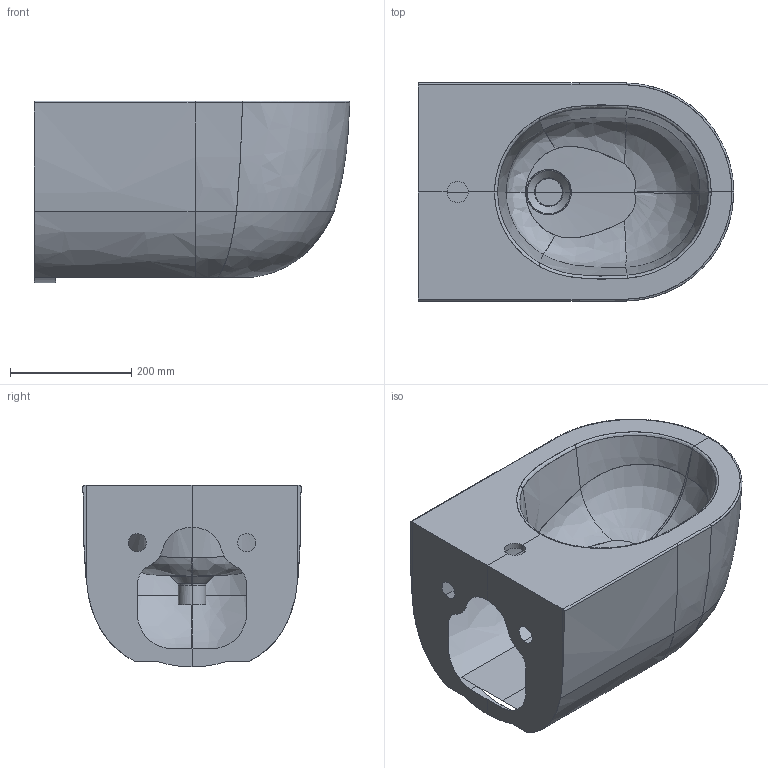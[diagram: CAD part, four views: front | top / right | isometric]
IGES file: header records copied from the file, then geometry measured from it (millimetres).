
Start section: START RECORD GO HERE.
Global section: file name: ART 7335 _3D.igs; native system: DASSAULT SYSTEMES CATIA V5 R19 - www.3ds.com; preprocessor: CATIA Version 5 Release 19 SP 5 ; author: Luca; organization: DESKTOP-V7SON24; date: 20201118.100015; units: millimetre
Bounding box: 519.99 x 359.73 x 300 mm (x, y, z)
Surface area: 778065.9 mm2 (no closed solid volume)
Topology: 0 solids, 0 shells, 66 faces, 343 edges, 342 vertices
Faces by surface type: bspline 44, revolution 10, plane 10, extrusion 2
